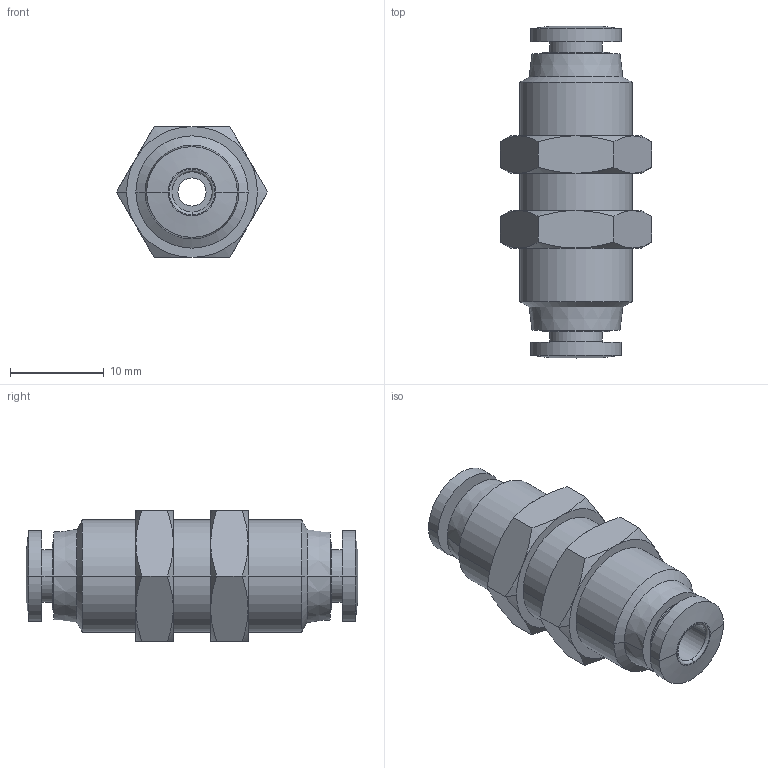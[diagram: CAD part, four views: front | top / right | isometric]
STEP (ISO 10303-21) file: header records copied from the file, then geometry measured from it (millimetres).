
FILE_DESCRIPTION (( 'STEP AP203' ), '1' );
FILE_NAME ('FE04-00.STEP', '2020-05-12T14:03:15', ( '' ), ( '' ), 'SwSTEP 2.0', 'SolidWorks 2019', '' );
FILE_SCHEMA (( 'CONFIG_CONTROL_DESIGN' ));
Length unit declared in the file: millimetre
Products named in the file (1): FE04-00
Bounding box: 16.17 x 35.5 x 14 mm (x, y, z)
Volume: 3401.8 mm3; surface area: 2303 mm2
Topology: 1 solids, 1 shells, 94 faces, 200 edges, 120 vertices
Faces by surface type: cone 40, plane 26, cylinder 24, torus 4
Entity records: 2557 total; most frequent: CARTESIAN_POINT 511, DIRECTION 442, ORIENTED_EDGE 400, EDGE_CURVE 200, AXIS2_PLACEMENT_3D 195, VERTEX_POINT 120, EDGE_LOOP 108, CIRCLE 100
